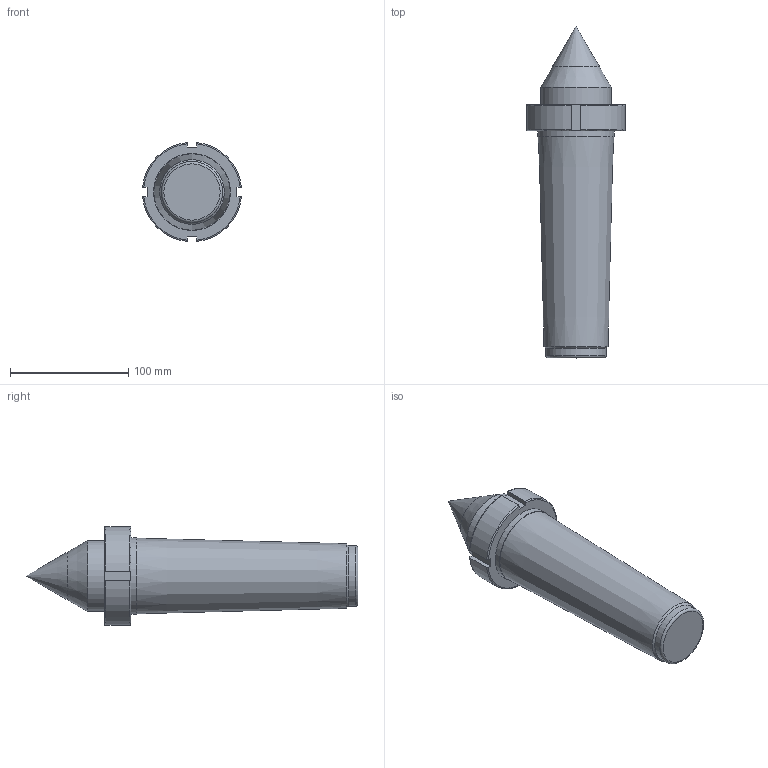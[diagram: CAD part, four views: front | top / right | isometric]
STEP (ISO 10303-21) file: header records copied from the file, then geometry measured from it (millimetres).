
FILE_DESCRIPTION(/* description */ (''),/* implementation_level */ '2;1');
FILE_NAME(/* name */ 'MT6-F140-60.stp',/* time_stamp */ '2025-05-22T08:46:16+03:00',/* author */ ('User'),/* organization */ (''),/* preprocessor_version */ 'ST-DEVELOPER v19.2',/* originating_system */ 'Autodesk Inventor 2024',/* authorisation */ '');
FILE_SCHEMA (('AUTOMOTIVE_DESIGN { 1 0 10303 214 3 1 1 }'));
Length unit declared in the file: millimetre
Products named in the file (1): MT6-F140-60
Bounding box: 83.62 x 280.46 x 83.62 mm (x, y, z)
Volume: 735370.1 mm3; surface area: 65109 mm2
Topology: 1 solids, 1 shells, 39 faces, 98 edges, 64 vertices
Faces by surface type: plane 17, cylinder 9, torus 9, cone 4
Full cylindrical faces by diameter (mm): 39.98 x1, 40 x1, 51.5 x1, 60 x1, 65 x1
Entity records: 1371 total; most frequent: CARTESIAN_POINT 345, ORIENTED_EDGE 194, DIRECTION 193, EDGE_CURVE 97, AXIS2_PLACEMENT_3D 72, VERTEX_POINT 64, LINE 49, VECTOR 49
